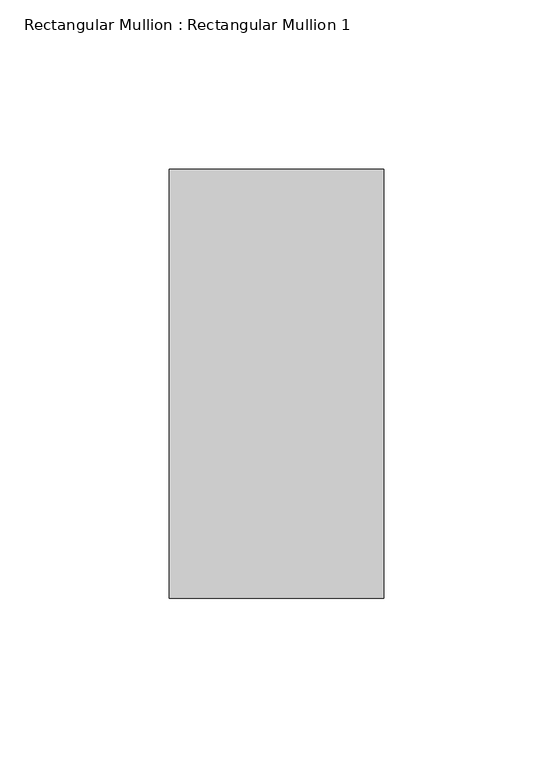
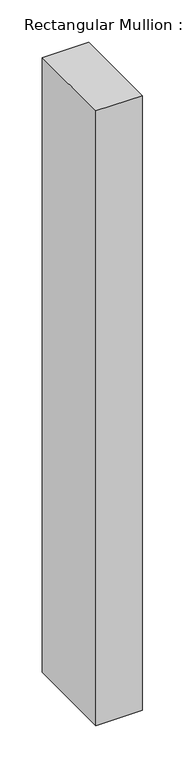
"""IFC4 building model written with IfcOpenShell, lengths in millimetres: member geometry, Rectangular Mullion : Rectangular Mullion 1."""

from ifc_helpers import new_model, si_unit, frame, origin, place, context, project, spatial, polyline, outline, extrude, source, transform, mapped, element, save


def rectangular_mullion_rectangular_mullion_1_b0e0489a(model_context):
    return source(origin(), model_context, "Body", "SweptSolid", [
        extrude(outline(polyline([(31.75, 63.5), (31.75, -63.5), (-31.75, -63.5), (-31.75, 63.5), (31.75, 63.5)])), frame((0.0, 0.0, -887.9416667), z_axis=(0.0, 0.0, 1.0), x_axis=(1.0, 0.0, 0.0)), (0.0, 0.0, 1.0), 887.9416667),
    ])


if __name__ == "__main__":
    model = new_model("IFC4")
    model_context = context("Model", 3, world=origin())
    ifc_project = project(units=[si_unit("LENGTHUNIT", "METRE", prefix="MILLI")], contexts=[model_context])
    site = spatial("IfcSite", under=ifc_project)
    building = spatial("IfcBuilding", under=site)
    placement = place(None, origin())
    rectangular_mullion_rectangular_mullion_1_shape = rectangular_mullion_rectangular_mullion_1_b0e0489a(model_context)
    element("IfcMember", 1, ObjectType="Rectangular Mullion : Rectangular Mullion 1", at=placement, inside=building, context=model_context, shape_type="MappedRepresentation", body=[
        mapped(rectangular_mullion_rectangular_mullion_1_shape, transform((0.0, 0.0, 0.0), x_axis=(1.0, 0.0, 0.0), y_axis=(0.0, 1.0, 0.0), z_axis=(0.0, 0.0, 1.0))),
    ])
    save(model, "model.ifc")
